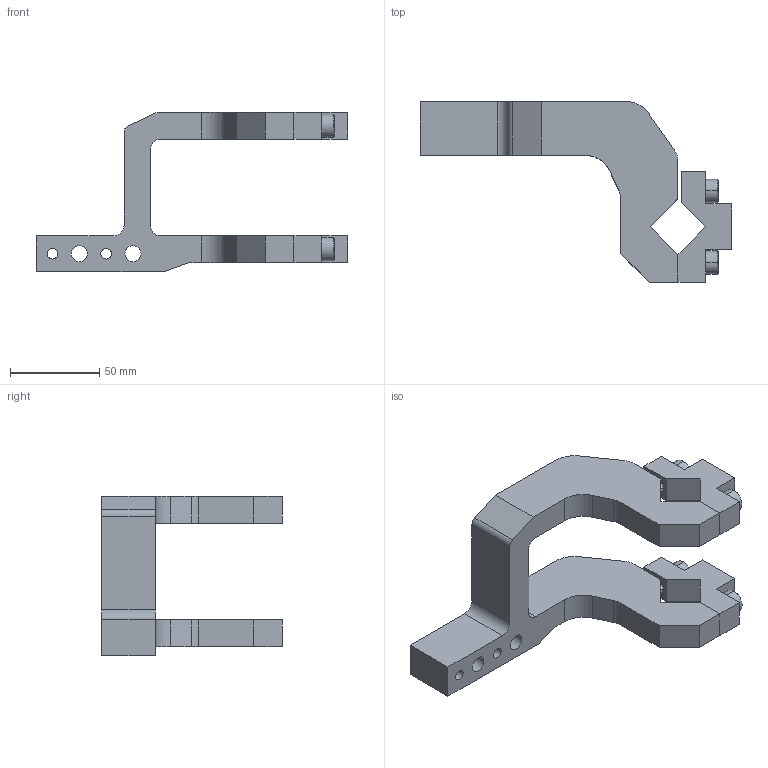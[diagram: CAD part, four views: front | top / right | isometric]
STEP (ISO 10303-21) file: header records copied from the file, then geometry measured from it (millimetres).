
FILE_DESCRIPTION((''),'2;1');
FILE_NAME('S:\Matthew\Step Files\XM Clamp Arms\XJ63-CAR-02.stp','2006-06-28T08:18:10',('Matthew'),(''),'Autodesk Inventor 8','Autodesk Inventor 8','');
FILE_SCHEMA(('AUTOMOTIVE_DESIGN { 1 0 10303 214 1 1 1 1 }'));
Length unit declared in the file: millimetre
Products named in the file (4): XJ63-CAR-02; XJ63-CAR-021; XJ63-CAR-022; XJ63-CAR-023
Assembly tree (3 placements, depth 2):
  XJ63-CAR-02
    XJ63-CAR-021
    XJ63-CAR-022
    XJ63-CAR-023
Bounding box: 174 x 101 x 89 mm (x, y, z)
Volume: 216028.5 mm3; surface area: 55396.4 mm2
Topology: 3 solids, 3 shells, 155 faces, 395 edges, 254 vertices
Faces by surface type: plane 93, bspline 32, cylinder 22, cone 8
Entity records: 5140 total; most frequent: CARTESIAN_POINT 1347, ORIENTED_EDGE 774, DIRECTION 747, EDGE_CURVE 387, VECTOR 287, LINE 287, VERTEX_POINT 254, AXIS2_PLACEMENT_3D 230
